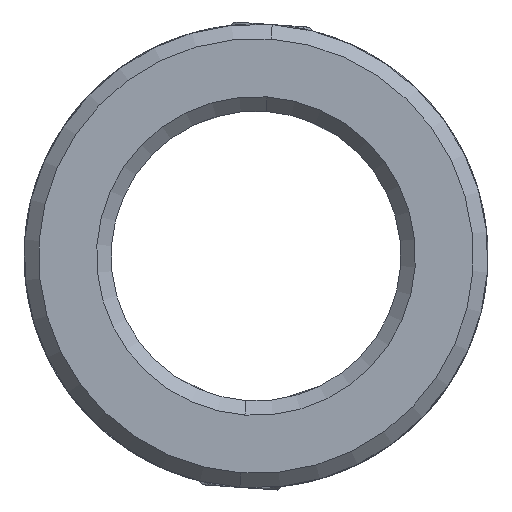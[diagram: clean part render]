
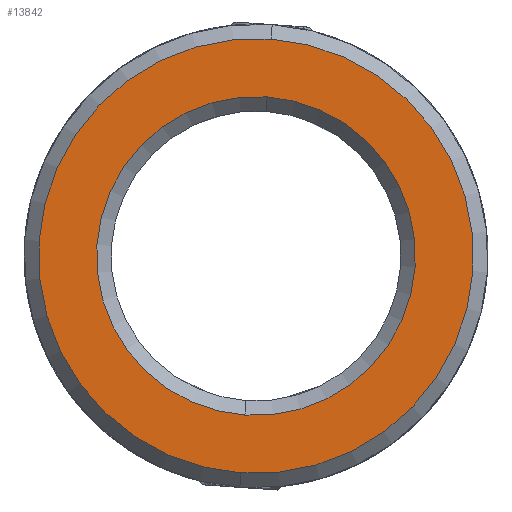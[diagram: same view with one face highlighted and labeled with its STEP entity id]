
A CAD part, front view. The second image highlights one B-rep face of the part: STEP entity #13842.
In plain terms, the highlighted planar face has unit normal (0, -1, 0).
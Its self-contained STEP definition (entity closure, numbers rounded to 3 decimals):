
#78 = VERTEX_POINT ( 'NONE', #13905 ) ;
#176 = CARTESIAN_POINT ( 'NONE',  ( 0., -17.5, 0. ) ) ;
#606 = AXIS2_PLACEMENT_3D ( 'NONE', #10017, #9005, #13396 ) ;
#926 = EDGE_CURVE ( 'NONE', #7999, #78, #11846, .T. ) ;
#1438 = ORIENTED_EDGE ( 'NONE', *, *, #7011, .T. ) ;
#1488 = DIRECTION ( 'NONE',  ( 0.07, 0., 0.998 ) ) ;
#1804 = CARTESIAN_POINT ( 'NONE',  ( 0., -17.5, 0. ) ) ;
#1919 = VERTEX_POINT ( 'NONE', #10606 ) ;
#2010 = CARTESIAN_POINT ( 'NONE',  ( 0., -17.5, 0. ) ) ;
#2591 = CARTESIAN_POINT ( 'NONE',  ( 0., -17.5, 0. ) ) ;
#2636 = EDGE_CURVE ( 'NONE', #78, #7999, #8432, .T. ) ;
#3814 = EDGE_CURVE ( 'NONE', #7190, #1919, #9633, .T. ) ;
#4546 = FACE_BOUND ( 'NONE', #5752, .T. ) ;
#4590 = DIRECTION ( 'NONE',  ( 0., -1., 0. ) ) ;
#4616 = DIRECTION ( 'NONE',  ( 0.07, 0., 0.998 ) ) ;
#5120 = DIRECTION ( 'NONE',  ( 0., -1., 0. ) ) ;
#5752 = EDGE_LOOP ( 'NONE', ( #1438, #6777 ) ) ;
#5826 = AXIS2_PLACEMENT_3D ( 'NONE', #176, #10180, #4616 ) ;
#6777 = ORIENTED_EDGE ( 'NONE', *, *, #3814, .T. ) ;
#7011 = EDGE_CURVE ( 'NONE', #1919, #7190, #11218, .T. ) ;
#7190 = VERTEX_POINT ( 'NONE', #12369 ) ;
#7412 = ORIENTED_EDGE ( 'NONE', *, *, #926, .T. ) ;
#7921 = EDGE_LOOP ( 'NONE', ( #7412, #11648 ) ) ;
#7999 = VERTEX_POINT ( 'NONE', #8495 ) ;
#8198 = AXIS2_PLACEMENT_3D ( 'NONE', #2591, #13505, #1488 ) ;
#8432 = CIRCLE ( 'NONE', #14165, 7.5 ) ;
#8495 = CARTESIAN_POINT ( 'NONE',  ( -0.523, -17.5, -7.482 ) ) ;
#9005 = DIRECTION ( 'NONE',  ( 0., 1., 0. ) ) ;
#9633 = CIRCLE ( 'NONE', #606, 5.5 ) ;
#10017 = CARTESIAN_POINT ( 'NONE',  ( 0., -17.5, 0. ) ) ;
#10180 = DIRECTION ( 'NONE',  ( 0., -1., 0. ) ) ;
#10606 = CARTESIAN_POINT ( 'NONE',  ( 0.384, -17.5, 5.487 ) ) ;
#10747 = DIRECTION ( 'NONE',  ( 0.07, 0., 0.998 ) ) ;
#11130 = FACE_OUTER_BOUND ( 'NONE', #7921, .T. ) ;
#11218 = CIRCLE ( 'NONE', #8198, 5.5 ) ;
#11648 = ORIENTED_EDGE ( 'NONE', *, *, #2636, .T. ) ;
#11846 = CIRCLE ( 'NONE', #13673, 7.5 ) ;
#12179 = DIRECTION ( 'NONE',  ( 0.07, 0., 0.998 ) ) ;
#12369 = CARTESIAN_POINT ( 'NONE',  ( -0.384, -17.5, -5.487 ) ) ;
#13344 = PLANE ( 'NONE',  #5826 ) ;
#13396 = DIRECTION ( 'NONE',  ( 0.07, 0., 0.998 ) ) ;
#13505 = DIRECTION ( 'NONE',  ( 0., 1., 0. ) ) ;
#13673 = AXIS2_PLACEMENT_3D ( 'NONE', #2010, #4590, #12179 ) ;
#13842 = ADVANCED_FACE ( 'NONE', ( #4546, #11130 ), #13344, .T. ) ;
#13905 = CARTESIAN_POINT ( 'NONE',  ( 0.523, -17.5, 7.482 ) ) ;
#14165 = AXIS2_PLACEMENT_3D ( 'NONE', #1804, #5120, #10747 ) ;
